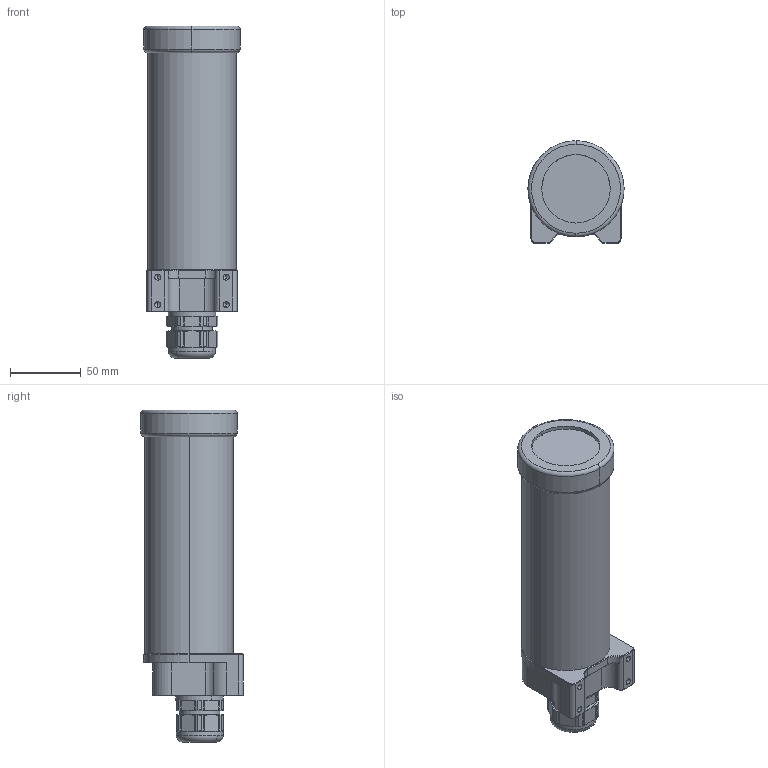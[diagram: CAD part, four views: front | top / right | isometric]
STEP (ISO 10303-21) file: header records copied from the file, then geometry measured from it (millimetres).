
FILE_DESCRIPTION (( 'STEP AP203' ), '1' );
FILE_NAME ('24C-EL.STEP', '2022-10-13T17:51:19', ( '' ), ( '' ), 'SwSTEP 2.0', 'SolidWorks 2021', '' );
FILE_SCHEMA (( 'CONFIG_CONTROL_DESIGN' ));
Length unit declared in the file: inch
Products named in the file (15): 91292A108_91292A108; 24C-EL; 9452K141_Expanded; PG21-B01; PG21-01-01-01-03; 500119; PG21-S01; 200316; 4452K541; PG21-N03; 400119; 200393; 200717; 200428; PG21-I01
Assembly tree (17 placements, depth 3):
  24C-EL
    200316
    200428
    200393
    200717
    400119
    500119
    PG21-01-01-01-03
      PG21-B01
      PG21-I01
      PG21-S01
      PG21-N03
    4452K541  x2
    9452K141_Expanded
    91292A108_91292A108  x3
Bounding box: 67.82 x 72.01 x 234.05 mm (x, y, z)
Volume: 202276.6 mm3; surface area: 136909.7 mm2
Topology: 17 solids, 17 shells, 1004 faces, 2695 edges, 1733 vertices
Faces by surface type: cylinder 506, plane 273, cone 200, torus 13, bspline 12
Entity records: 31023 total; most frequent: CARTESIAN_POINT 9144, ORIENTED_EDGE 4308, DIRECTION 4268, EDGE_CURVE 2154, AXIS2_PLACEMENT_3D 1671, VERTEX_POINT 1386, LINE 926, VECTOR 926
